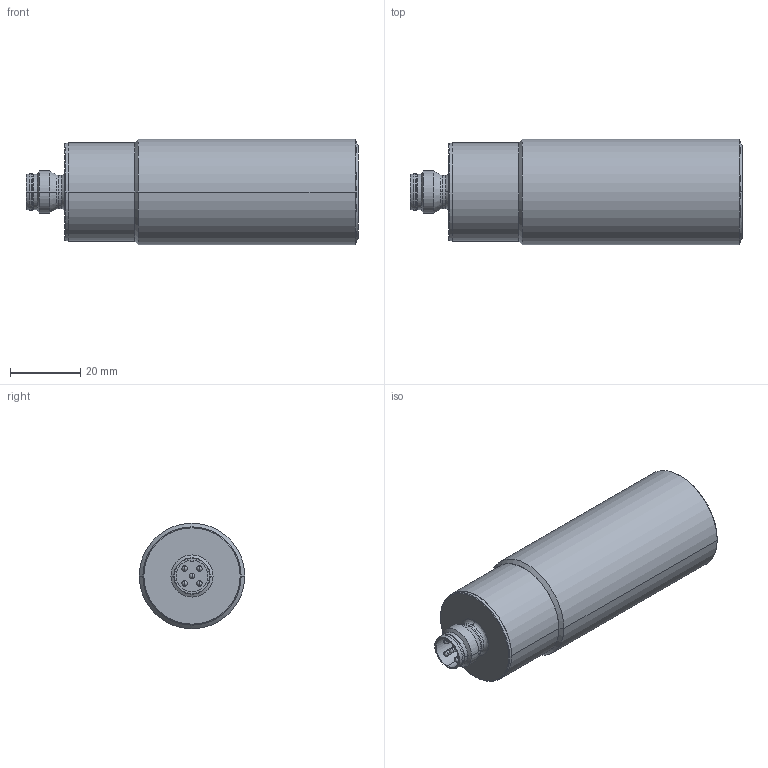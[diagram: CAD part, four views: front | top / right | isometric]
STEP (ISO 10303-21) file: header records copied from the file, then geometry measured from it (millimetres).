
FILE_DESCRIPTION((''),'2;1');
FILE_NAME('C:\Dokumente und Einstellungen\Kramp\Eigene Dateien\Microsonic Nacharb 1\STP\mic-25_XX_M.stp','2005-08-09T11:30:55',('Kramp'),(''),'Autodesk Inventor 7','Autodesk Inventor 7','');
FILE_SCHEMA(('AUTOMOTIVE_DESIGN { 1 0 10303 214 1 1 1 1 }'));
Length unit declared in the file: millimetre
Products named in the file (1): mic-25_XX_M
Bounding box: 94.5 x 30 x 30 mm (x, y, z)
Volume: 57553.8 mm3; surface area: 9827.9 mm2
Topology: 1 solids, 1 shells, 74 faces, 176 edges, 96 vertices
Faces by surface type: cylinder 31, cone 14, sphere 10, plane 8, bspline 7, torus 4
Entity records: 2226 total; most frequent: CARTESIAN_POINT 540, DIRECTION 401, ORIENTED_EDGE 312, AXIS2_PLACEMENT_3D 177, EDGE_CURVE 156, CIRCLE 109, VERTEX_POINT 96, EDGE_LOOP 86
